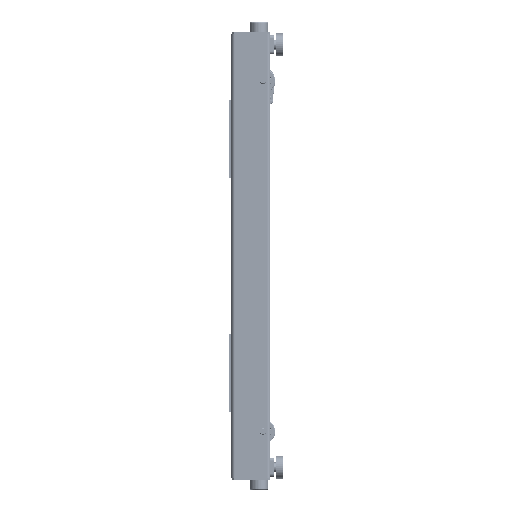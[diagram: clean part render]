
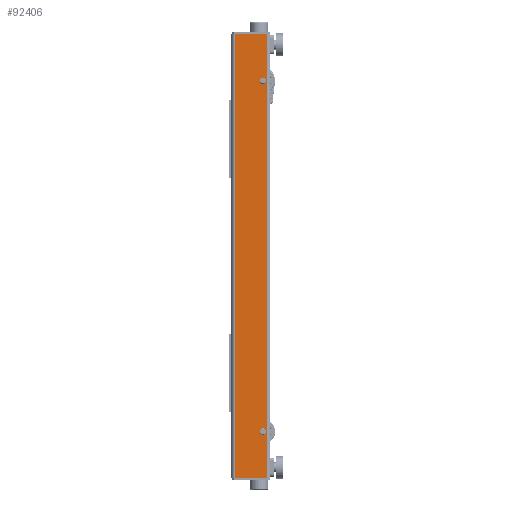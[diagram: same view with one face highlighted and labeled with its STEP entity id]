
A CAD part, left-side view. The second image highlights one B-rep face of the part: STEP entity #92406.
In plain terms, the highlighted planar face has unit normal (-1, 0, 0).
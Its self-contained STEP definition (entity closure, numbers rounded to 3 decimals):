
#2947 = EDGE_CURVE ( 'NONE', #17139, #164295, #73091, .T. ) ;
#5133 = VERTEX_POINT ( 'NONE', #31794 ) ;
#6321 = CARTESIAN_POINT ( 'NONE',  ( -12.7, 16.383, -685.813 ) ) ;
#11112 = EDGE_LOOP ( 'NONE', ( #141316, #60039, #86449, #57351 ) ) ;
#12003 = FACE_BOUND ( 'NONE', #161391, .T. ) ;
#13252 = DIRECTION ( 'NONE',  ( 1., 0., 0. ) ) ;
#14622 = VERTEX_POINT ( 'NONE', #29979 ) ;
#14737 = AXIS2_PLACEMENT_3D ( 'NONE', #29016, #13252, #115428 ) ;
#17139 = VERTEX_POINT ( 'NONE', #108414 ) ;
#19385 = CARTESIAN_POINT ( 'NONE',  ( -12.7, 0., 865.188 ) ) ;
#20958 = ORIENTED_EDGE ( 'NONE', *, *, #161093, .T. ) ;
#22391 = AXIS2_PLACEMENT_3D ( 'NONE', #79558, #158508, #69518 ) ;
#24167 = CARTESIAN_POINT ( 'NONE',  ( -12.7, 127., 865.188 ) ) ;
#29016 = CARTESIAN_POINT ( 'NONE',  ( -12.7, 16.383, 684.543 ) ) ;
#29349 = CARTESIAN_POINT ( 'NONE',  ( -12.7, 0., -865.188 ) ) ;
#29979 = CARTESIAN_POINT ( 'NONE',  ( -12.7, 0., -865.188 ) ) ;
#30794 = CIRCLE ( 'NONE', #97230, 12.51 ) ;
#31794 = CARTESIAN_POINT ( 'NONE',  ( -12.7, 127., 865.188 ) ) ;
#35129 = ORIENTED_EDGE ( 'NONE', *, *, #146714, .T. ) ;
#44077 = CARTESIAN_POINT ( 'NONE',  ( -12.7, 3.873, 684.543 ) ) ;
#44851 = CARTESIAN_POINT ( 'NONE',  ( -12.7, 16.383, 684.543 ) ) ;
#47349 = AXIS2_PLACEMENT_3D ( 'NONE', #87627, #125841, #62649 ) ;
#48253 = CARTESIAN_POINT ( 'NONE',  ( -12.7, 0., 865.188 ) ) ;
#49410 = FACE_BOUND ( 'NONE', #125086, .T. ) ;
#50213 = FACE_OUTER_BOUND ( 'NONE', #11112, .T. ) ;
#51328 = VERTEX_POINT ( 'NONE', #155926 ) ;
#56467 = DIRECTION ( 'NONE',  ( 0., 1., 0. ) ) ;
#57351 = ORIENTED_EDGE ( 'NONE', *, *, #142832, .T. ) ;
#58584 = EDGE_CURVE ( 'NONE', #51328, #14622, #69998, .T. ) ;
#60039 = ORIENTED_EDGE ( 'NONE', *, *, #58584, .F. ) ;
#60611 = CARTESIAN_POINT ( 'NONE',  ( -12.7, 127., -865.188 ) ) ;
#61957 = ORIENTED_EDGE ( 'NONE', *, *, #109955, .T. ) ;
#62296 = DIRECTION ( 'NONE',  ( 0., -1., 0. ) ) ;
#62649 = DIRECTION ( 'NONE',  ( 0., 1., 0. ) ) ;
#67490 = DIRECTION ( 'NONE',  ( 0., -1., 0. ) ) ;
#69518 = DIRECTION ( 'NONE',  ( 0., 1., 0. ) ) ;
#69991 = CIRCLE ( 'NONE', #22391, 12.51 ) ;
#69998 = LINE ( 'NONE', #19385, #130724 ) ;
#71937 = DIRECTION ( 'NONE',  ( 1., 0., 0. ) ) ;
#73091 = CIRCLE ( 'NONE', #14737, 12.51 ) ;
#75124 = PLANE ( 'NONE',  #47349 ) ;
#75989 = CIRCLE ( 'NONE', #139693, 12.51 ) ;
#79558 = CARTESIAN_POINT ( 'NONE',  ( -12.7, 16.383, -685.813 ) ) ;
#85651 = LINE ( 'NONE', #48253, #134192 ) ;
#86449 = ORIENTED_EDGE ( 'NONE', *, *, #112835, .F. ) ;
#87627 = CARTESIAN_POINT ( 'NONE',  ( -12.7, 0., 865.188 ) ) ;
#89363 = VERTEX_POINT ( 'NONE', #133707 ) ;
#92406 = ADVANCED_FACE ( 'NONE', ( #49410, #12003, #50213 ), #75124, .F. ) ;
#92568 = CARTESIAN_POINT ( 'NONE',  ( -12.7, 3.873, -685.813 ) ) ;
#94616 = VECTOR ( 'NONE', #67490, 1000. ) ;
#96389 = DIRECTION ( 'NONE',  ( 1., 0., 0. ) ) ;
#96655 = DIRECTION ( 'NONE',  ( 0., 0., -1. ) ) ;
#97230 = AXIS2_PLACEMENT_3D ( 'NONE', #6321, #71937, #122636 ) ;
#98157 = LINE ( 'NONE', #24167, #141557 ) ;
#108414 = CARTESIAN_POINT ( 'NONE',  ( -12.7, 28.893, 684.543 ) ) ;
#109955 = EDGE_CURVE ( 'NONE', #89363, #112036, #69991, .T. ) ;
#112036 = VERTEX_POINT ( 'NONE', #92568 ) ;
#112835 = EDGE_CURVE ( 'NONE', #5133, #51328, #85651, .T. ) ;
#115428 = DIRECTION ( 'NONE',  ( 0., 1., 0. ) ) ;
#115975 = VERTEX_POINT ( 'NONE', #60611 ) ;
#121445 = ORIENTED_EDGE ( 'NONE', *, *, #2947, .T. ) ;
#122636 = DIRECTION ( 'NONE',  ( 0., 1., 0. ) ) ;
#124707 = DIRECTION ( 'NONE',  ( 0., 0., -1. ) ) ;
#125086 = EDGE_LOOP ( 'NONE', ( #61957, #35129 ) ) ;
#125841 = DIRECTION ( 'NONE',  ( 1., 0., 0. ) ) ;
#129851 = LINE ( 'NONE', #29349, #94616 ) ;
#130724 = VECTOR ( 'NONE', #96655, 1000. ) ;
#133687 = EDGE_CURVE ( 'NONE', #115975, #14622, #129851, .T. ) ;
#133707 = CARTESIAN_POINT ( 'NONE',  ( -12.7, 28.893, -685.813 ) ) ;
#134192 = VECTOR ( 'NONE', #62296, 1000. ) ;
#139693 = AXIS2_PLACEMENT_3D ( 'NONE', #44851, #96389, #56467 ) ;
#141316 = ORIENTED_EDGE ( 'NONE', *, *, #133687, .T. ) ;
#141557 = VECTOR ( 'NONE', #124707, 1000. ) ;
#142832 = EDGE_CURVE ( 'NONE', #5133, #115975, #98157, .T. ) ;
#146714 = EDGE_CURVE ( 'NONE', #112036, #89363, #30794, .T. ) ;
#155926 = CARTESIAN_POINT ( 'NONE',  ( -12.7, 0., 865.188 ) ) ;
#158508 = DIRECTION ( 'NONE',  ( 1., 0., 0. ) ) ;
#161093 = EDGE_CURVE ( 'NONE', #164295, #17139, #75989, .T. ) ;
#161391 = EDGE_LOOP ( 'NONE', ( #121445, #20958 ) ) ;
#164295 = VERTEX_POINT ( 'NONE', #44077 ) ;
